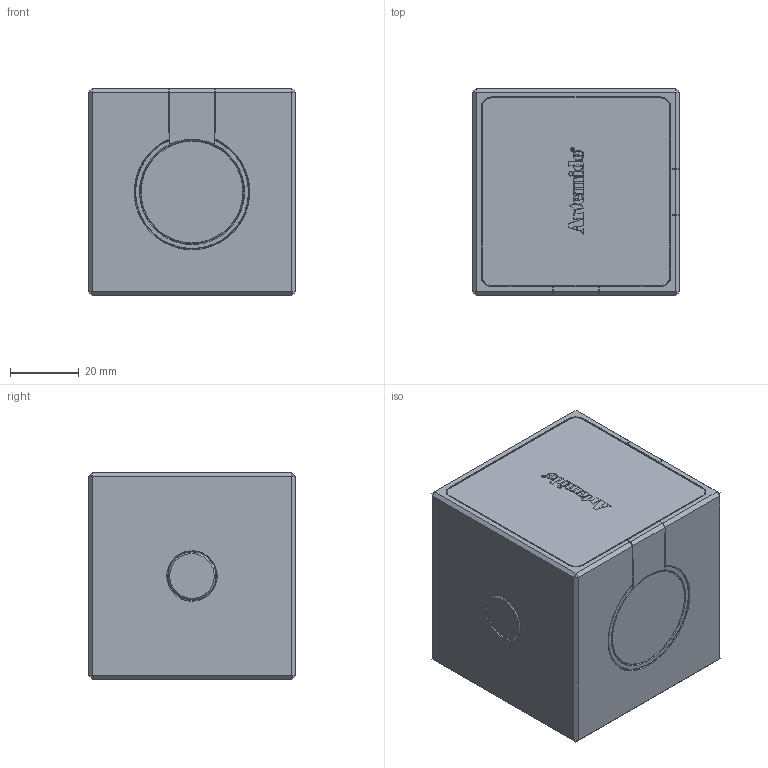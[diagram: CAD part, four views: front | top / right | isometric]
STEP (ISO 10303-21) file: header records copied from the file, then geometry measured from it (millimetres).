
FILE_DESCRIPTION(/* description */ (''),/* implementation_level */ '2;1');
FILE_NAME(/* name */ 'Funivia - Cube',/* time_stamp */ '2022-08-29T17:10:23+02:00',/* author */ (''),/* organization */ (''),/* preprocessor_version */ 'ST-DEVELOPER v16.5',/* originating_system */ 'Rhino 7.17',/* authorisation */ '');
FILE_SCHEMA (('AUTOMOTIVE_DESIGN'));
Length unit declared in the file: millimetre
Products named in the file (1): Document
Bounding box: 60 x 60 x 60 mm (x, y, z)
Volume: 89531.5 mm3; surface area: 51109 mm2
Topology: 4 solids, 4 shells, 558 faces, 1425 edges, 910 vertices
Faces by surface type: plane 266, bspline 190, cylinder 102
Entity records: 23065 total; most frequent: CARTESIAN_POINT 13995, ORIENTED_EDGE 2820, EDGE_CURVE 1410, B_SPLINE_CURVE_WITH_KNOTS 925, VERTEX_POINT 903, EDGE_LOOP 611, ADVANCED_FACE 558, FACE_OUTER_BOUND 558
